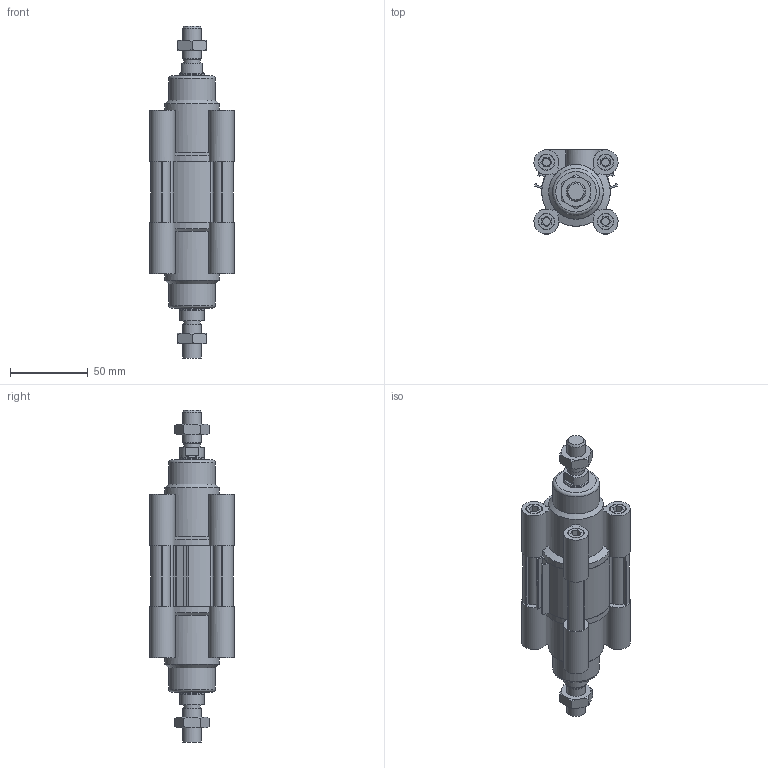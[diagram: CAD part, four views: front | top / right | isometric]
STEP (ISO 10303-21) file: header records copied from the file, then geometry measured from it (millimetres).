
FILE_DESCRIPTION((''),'2;1');
FILE_NAME('I:\Area Tecnica\Disegni\VARIE-3D\Componenti\ECOLIGHT\02\stp\139#_40_0000_02.iam.stp','2012-01-28T09:38:01',(''),(''),'Autodesk Inventor 2012','Autodesk Inventor 2012','');
FILE_SCHEMA(('AUTOMOTIVE_DESIGN { 1 0 10303 214 1 1 1 1 }'));
Length unit declared in the file: millimetre
Products named in the file (5): 139#_40_0000_02; CPL040-004-0; CPL040-001-01; CPL_40SP_0000; 1320_40_18F
Assembly tree (6 placements, depth 2):
  139#_40_0000_02
    CPL040-004-0
    CPL040-001-01  x2
    CPL_40SP_0000
    1320_40_18F  x2
Bounding box: 54 x 54 x 213 mm (x, y, z)
Volume: 247605.7 mm3; surface area: 80501 mm2
Topology: 6 solids, 6 shells, 351 faces, 860 edges, 564 vertices
Faces by surface type: plane 211, cylinder 98, cone 40, torus 2
Full cylindrical faces by diameter (mm): 5 x8, 5.5 x4, 8 x2, 10 x8, 10.5 x10, 10.8 x2, 11.6 x2, 12 x2, 15.5 x2, 16 x4, 30 x2, 35 x2, 40 x4
Entity records: 7104 total; most frequent: CARTESIAN_POINT 1295, DIRECTION 1162, ORIENTED_EDGE 1084, EDGE_CURVE 542, AXIS2_PLACEMENT_3D 413, VERTEX_POINT 380, VECTOR 336, LINE 336
